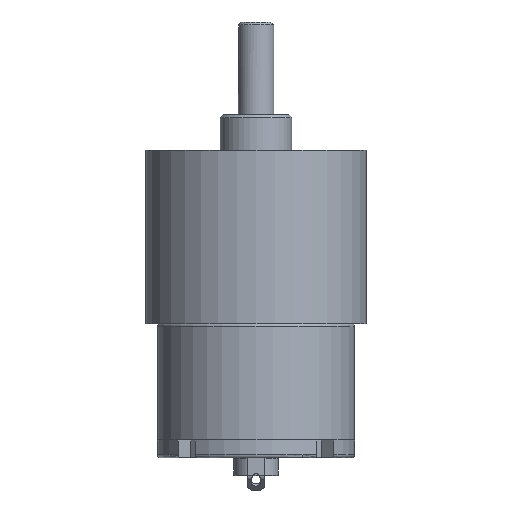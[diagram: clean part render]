
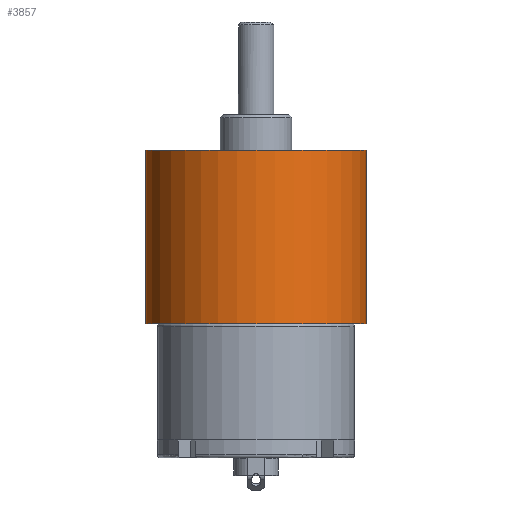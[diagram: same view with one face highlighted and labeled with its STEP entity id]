
A CAD part, front view. The second image highlights one B-rep face of the part: STEP entity #3857.
In plain terms, the highlighted cylindrical face has radius 18.5 mm (diameter 37 mm), a full revolution.
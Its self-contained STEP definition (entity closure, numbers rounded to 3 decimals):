
#316=CYLINDRICAL_SURFACE('',#4186,18.5);
#388=LINE('',#6018,#699);
#699=VECTOR('',#4770,18.5);
#1036=FACE_OUTER_BOUND('',#1281,.T.);
#1281=EDGE_LOOP('',(#2796,#2797,#2798,#2799));
#1610=CIRCLE('',#4187,18.5);
#1611=CIRCLE('',#4188,18.5);
#1831=VERTEX_POINT('',#6015);
#1832=VERTEX_POINT('',#6017);
#2206=EDGE_CURVE('',#1831,#1831,#1610,.T.);
#2207=EDGE_CURVE('',#1831,#1832,#388,.T.);
#2208=EDGE_CURVE('',#1832,#1832,#1611,.T.);
#2796=ORIENTED_EDGE('',*,*,#2206,.F.);
#2797=ORIENTED_EDGE('',*,*,#2207,.T.);
#2798=ORIENTED_EDGE('',*,*,#2208,.T.);
#2799=ORIENTED_EDGE('',*,*,#2207,.F.);
#3857=ADVANCED_FACE('',(#1036),#316,.T.);
#4186=AXIS2_PLACEMENT_3D('',#6014,#4766,#4767);
#4187=AXIS2_PLACEMENT_3D('',#6016,#4768,#4769);
#4188=AXIS2_PLACEMENT_3D('',#6019,#4771,#4772);
#4766=DIRECTION('center_axis',(0.,0.,1.));
#4767=DIRECTION('ref_axis',(1.,0.,0.));
#4768=DIRECTION('center_axis',(0.,0.,1.));
#4769=DIRECTION('ref_axis',(1.,0.,0.));
#4770=DIRECTION('',(0.,0.,-1.));
#4771=DIRECTION('center_axis',(0.,0.,1.));
#4772=DIRECTION('ref_axis',(1.,0.,0.));
#6014=CARTESIAN_POINT('Origin',(0.,0.,-29.));
#6015=CARTESIAN_POINT('',(-18.5,0.,0.));
#6016=CARTESIAN_POINT('Origin',(0.,0.,0.));
#6017=CARTESIAN_POINT('',(-18.5,0.,-29.));
#6018=CARTESIAN_POINT('',(-18.5,0.,-29.));
#6019=CARTESIAN_POINT('Origin',(0.,0.,-29.));
